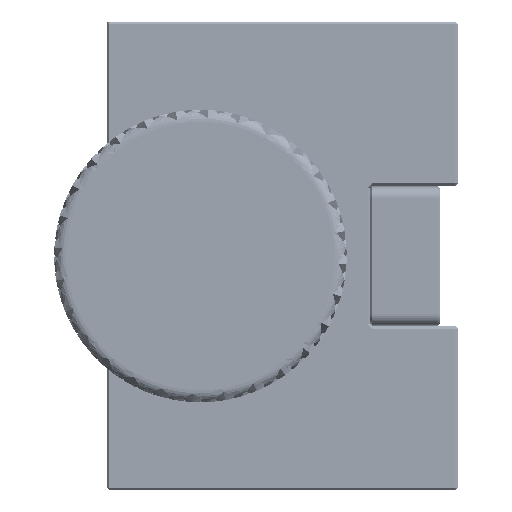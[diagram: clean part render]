
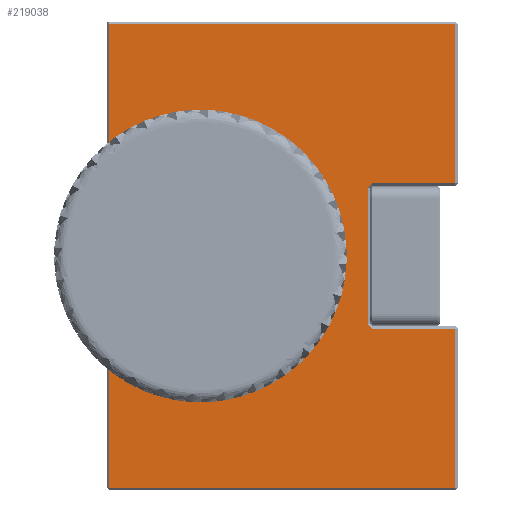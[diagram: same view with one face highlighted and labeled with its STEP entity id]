
A CAD part, left-side view. The second image highlights one B-rep face of the part: STEP entity #219038.
In plain terms, the highlighted planar face has unit normal (-1, 0, 0).
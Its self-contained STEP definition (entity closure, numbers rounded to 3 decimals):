
#681 = CARTESIAN_POINT ( 'NONE',  ( 0., 7.7, -25.8 ) ) ;
#1521 = VECTOR ( 'NONE', #69185, 1000. ) ;
#1945 = VERTEX_POINT ( 'NONE', #182606 ) ;
#2843 = VECTOR ( 'NONE', #110123, 1000. ) ;
#3432 = CARTESIAN_POINT ( 'NONE',  ( 0., 7.7, 0. ) ) ;
#3754 = ORIENTED_EDGE ( 'NONE', *, *, #222854, .T. ) ;
#5734 = EDGE_CURVE ( 'NONE', #79966, #36650, #48565, .T. ) ;
#11133 = EDGE_CURVE ( 'NONE', #92114, #260364, #173292, .T. ) ;
#13346 = ORIENTED_EDGE ( 'NONE', *, *, #207324, .T. ) ;
#16926 = CARTESIAN_POINT ( 'NONE',  ( 0., 22., -15.8 ) ) ;
#16979 = EDGE_LOOP ( 'NONE', ( #156904, #142202, #178972, #24353, #58932, #266811, #3754, #72042, #169666, #46213 ) ) ;
#24353 = ORIENTED_EDGE ( 'NONE', *, *, #45917, .T. ) ;
#26555 = CARTESIAN_POINT ( 'NONE',  ( 0., 7.3, -26.2 ) ) ;
#27505 = LINE ( 'NONE', #111077, #36592 ) ;
#27814 = DIRECTION ( 'NONE',  ( 0., 1., 0. ) ) ;
#31327 = VERTEX_POINT ( 'NONE', #34650 ) ;
#32463 = CARTESIAN_POINT ( 'NONE',  ( 0., 30., 0. ) ) ;
#33419 = CARTESIAN_POINT ( 'NONE',  ( 0., 22., -20. ) ) ;
#34650 = CARTESIAN_POINT ( 'NONE',  ( 0., 0.2, -26.2 ) ) ;
#36592 = VECTOR ( 'NONE', #194576, 1000. ) ;
#36650 = VERTEX_POINT ( 'NONE', #16926 ) ;
#43333 = VERTEX_POINT ( 'NONE', #173173 ) ;
#45134 = AXIS2_PLACEMENT_3D ( 'NONE', #98308, #181816, #265400 ) ;
#45917 = EDGE_CURVE ( 'NONE', #254638, #172904, #70918, .T. ) ;
#46213 = ORIENTED_EDGE ( 'NONE', *, *, #144975, .F. ) ;
#46757 = EDGE_CURVE ( 'NONE', #172904, #92114, #268995, .T. ) ;
#48565 = CIRCLE ( 'NONE', #166712, 4.2 ) ;
#48965 = DIRECTION ( 'NONE',  ( 0., -1., 0. ) ) ;
#52990 = FACE_BOUND ( 'NONE', #205529, .T. ) ;
#58932 = ORIENTED_EDGE ( 'NONE', *, *, #46757, .T. ) ;
#64337 = CARTESIAN_POINT ( 'NONE',  ( 0., 30., -13.8 ) ) ;
#69185 = DIRECTION ( 'NONE',  ( 0., 0., -1. ) ) ;
#70918 = LINE ( 'NONE', #154534, #74999 ) ;
#72042 = ORIENTED_EDGE ( 'NONE', *, *, #191717, .T. ) ;
#72811 = CARTESIAN_POINT ( 'NONE',  ( 0., 0.2, -26. ) ) ;
#74999 = VECTOR ( 'NONE', #238003, 1000. ) ;
#79966 = VERTEX_POINT ( 'NONE', #133422 ) ;
#81314 = CARTESIAN_POINT ( 'NONE',  ( 0., 30., -0.2 ) ) ;
#81508 = ORIENTED_EDGE ( 'NONE', *, *, #5734, .T. ) ;
#85008 = EDGE_CURVE ( 'NONE', #149461, #1945, #27505, .T. ) ;
#87025 = DIRECTION ( 'NONE',  ( 0., 0., 1. ) ) ;
#92114 = VERTEX_POINT ( 'NONE', #204867 ) ;
#95528 = EDGE_CURVE ( 'NONE', #31327, #43333, #131934, .T. ) ;
#97848 = VERTEX_POINT ( 'NONE', #241016 ) ;
#98308 = CARTESIAN_POINT ( 'NONE',  ( 0., 22., -20. ) ) ;
#101281 = VECTOR ( 'NONE', #87025, 1000. ) ;
#105974 = VECTOR ( 'NONE', #164884, 1000. ) ;
#108288 = VERTEX_POINT ( 'NONE', #681 ) ;
#110123 = DIRECTION ( 'NONE',  ( 0., -0.707, -0.707 ) ) ;
#111077 = CARTESIAN_POINT ( 'NONE',  ( 0., 7.7, -14.2 ) ) ;
#116063 = DIRECTION ( 'NONE',  ( 1., 0., 0. ) ) ;
#117017 = DIRECTION ( 'NONE',  ( 1., 0., 0. ) ) ;
#131934 = LINE ( 'NONE', #215387, #259400 ) ;
#132216 = CARTESIAN_POINT ( 'NONE',  ( 0., 29.8, -39.8 ) ) ;
#133422 = CARTESIAN_POINT ( 'NONE',  ( 0., 22., -24.2 ) ) ;
#136623 = FACE_OUTER_BOUND ( 'NONE', #16979, .T. ) ;
#142202 = ORIENTED_EDGE ( 'NONE', *, *, #85008, .F. ) ;
#144975 = EDGE_CURVE ( 'NONE', #108288, #43333, #151212, .T. ) ;
#146166 = VECTOR ( 'NONE', #147918, 1000. ) ;
#147918 = DIRECTION ( 'NONE',  ( 0., -1., 0. ) ) ;
#149461 = VERTEX_POINT ( 'NONE', #266788 ) ;
#151212 = LINE ( 'NONE', #26555, #2843 ) ;
#153125 = LINE ( 'NONE', #236585, #205121 ) ;
#154534 = CARTESIAN_POINT ( 'NONE',  ( 0., 0.2, 0. ) ) ;
#156412 = DIRECTION ( 'NONE',  ( 0., 0., 1. ) ) ;
#156904 = ORIENTED_EDGE ( 'NONE', *, *, #269691, .T. ) ;
#163261 = CIRCLE ( 'NONE', #45134, 4.2 ) ;
#164884 = DIRECTION ( 'NONE',  ( 0., 1., 0. ) ) ;
#166712 = AXIS2_PLACEMENT_3D ( 'NONE', #33419, #117017, #200490 ) ;
#168467 = CARTESIAN_POINT ( 'NONE',  ( 0., 0.2, -13.8 ) ) ;
#169666 = ORIENTED_EDGE ( 'NONE', *, *, #95528, .T. ) ;
#172904 = VERTEX_POINT ( 'NONE', #199902 ) ;
#173173 = CARTESIAN_POINT ( 'NONE',  ( 0., 7.3, -26.2 ) ) ;
#173292 = LINE ( 'NONE', #256814, #1521 ) ;
#178972 = ORIENTED_EDGE ( 'NONE', *, *, #254650, .T. ) ;
#181816 = DIRECTION ( 'NONE',  ( 1., 0., 0. ) ) ;
#182606 = CARTESIAN_POINT ( 'NONE',  ( 0., 7.7, -14.2 ) ) ;
#191078 = LINE ( 'NONE', #3432, #101281 ) ;
#191717 = EDGE_CURVE ( 'NONE', #97848, #31327, #260487, .T. ) ;
#194576 = DIRECTION ( 'NONE',  ( 0., 0.707, -0.707 ) ) ;
#199526 = DIRECTION ( 'NONE',  ( 0., 0., -1. ) ) ;
#199902 = CARTESIAN_POINT ( 'NONE',  ( 0., 0.2, -0.2 ) ) ;
#200490 = DIRECTION ( 'NONE',  ( 0., 0., -1. ) ) ;
#204867 = CARTESIAN_POINT ( 'NONE',  ( 0., 29.8, -0.2 ) ) ;
#205121 = VECTOR ( 'NONE', #48965, 1000. ) ;
#205529 = EDGE_LOOP ( 'NONE', ( #13346, #81508 ) ) ;
#207324 = EDGE_CURVE ( 'NONE', #36650, #79966, #163261, .T. ) ;
#215387 = CARTESIAN_POINT ( 'NONE',  ( 0., 30., -26.2 ) ) ;
#219038 = ADVANCED_FACE ( 'NONE', ( #52990, #136623 ), #220093, .F. ) ;
#220093 = PLANE ( 'NONE',  #225903 ) ;
#222854 = EDGE_CURVE ( 'NONE', #260364, #97848, #153125, .T. ) ;
#225903 = AXIS2_PLACEMENT_3D ( 'NONE', #32463, #116063, #199526 ) ;
#227049 = VECTOR ( 'NONE', #156412, 1000. ) ;
#236585 = CARTESIAN_POINT ( 'NONE',  ( 0., 30., -39.8 ) ) ;
#238003 = DIRECTION ( 'NONE',  ( 0., 0., 1. ) ) ;
#241016 = CARTESIAN_POINT ( 'NONE',  ( 0., 0.2, -39.8 ) ) ;
#251955 = LINE ( 'NONE', #64337, #146166 ) ;
#254638 = VERTEX_POINT ( 'NONE', #168467 ) ;
#254650 = EDGE_CURVE ( 'NONE', #149461, #254638, #251955, .T. ) ;
#256814 = CARTESIAN_POINT ( 'NONE',  ( 0., 29.8, 0. ) ) ;
#259400 = VECTOR ( 'NONE', #27814, 1000. ) ;
#260364 = VERTEX_POINT ( 'NONE', #132216 ) ;
#260487 = LINE ( 'NONE', #72811, #227049 ) ;
#265400 = DIRECTION ( 'NONE',  ( 0., 0., -1. ) ) ;
#266788 = CARTESIAN_POINT ( 'NONE',  ( 0., 7.3, -13.8 ) ) ;
#266811 = ORIENTED_EDGE ( 'NONE', *, *, #11133, .T. ) ;
#268995 = LINE ( 'NONE', #81314, #105974 ) ;
#269691 = EDGE_CURVE ( 'NONE', #108288, #1945, #191078, .T. ) ;
